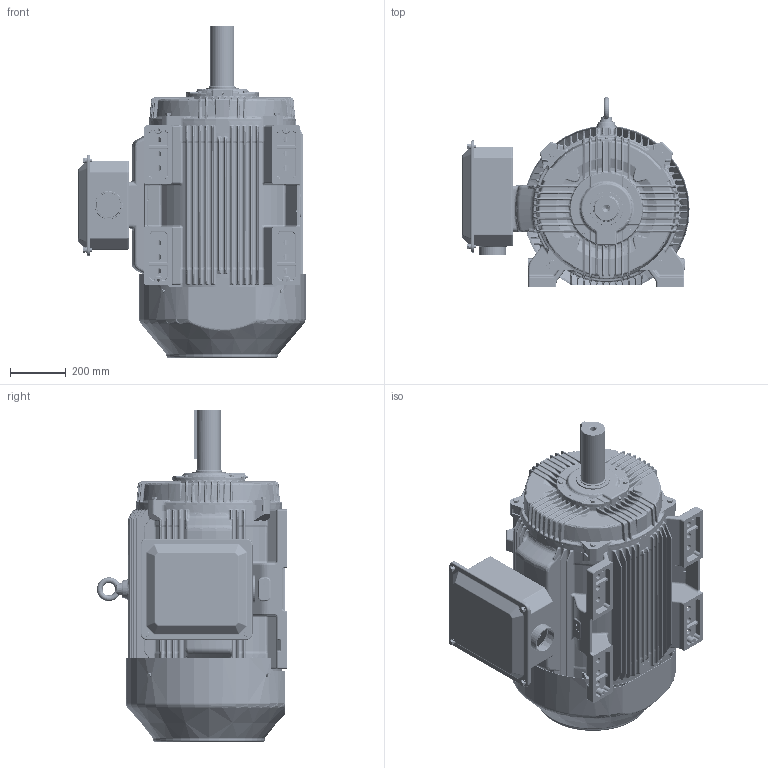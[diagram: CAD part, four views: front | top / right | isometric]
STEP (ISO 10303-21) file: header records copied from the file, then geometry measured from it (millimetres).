
FILE_DESCRIPTION (( 'STEP AP203' ), '1' );
FILE_NAME ('SS557009_RevA.STEP', '2022-09-23T13:53:00', ( '' ), ( '' ), 'SwSTEP 2.0', 'SolidWorks 2021', '' );
FILE_SCHEMA (( 'CONFIG_CONTROL_DESIGN' ));
Products named in the file (1): SS557009_RevA
Bounding box: 812 x 679.4 x 1186.4 mm (x, y, z)
Volume: 46915291.8 mm3; surface area: 8757488.2 mm2
Topology: 64 solids, 64 shells, 13258 faces, 32465 edges, 18820 vertices
Faces by surface type: cylinder 4362, bspline 3942, torus 1790, plane 1621, cone 814, sphere 729
Entity records: 557293 total; most frequent: CARTESIAN_POINT 272357, ORIENTED_EDGE 63298, DIRECTION 56794, EDGE_CURVE 31649, AXIS2_PLACEMENT_3D 24806, VERTEX_POINT 18634, CIRCLE 15489, EDGE_LOOP 14323
